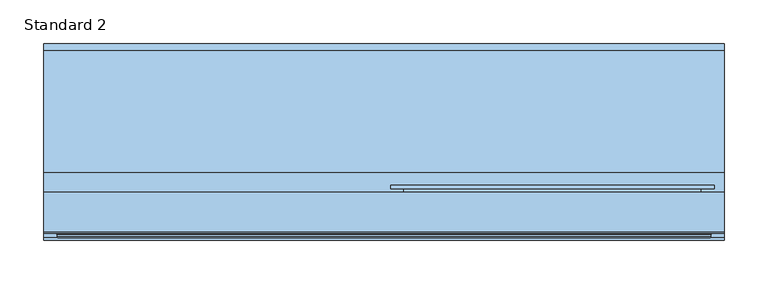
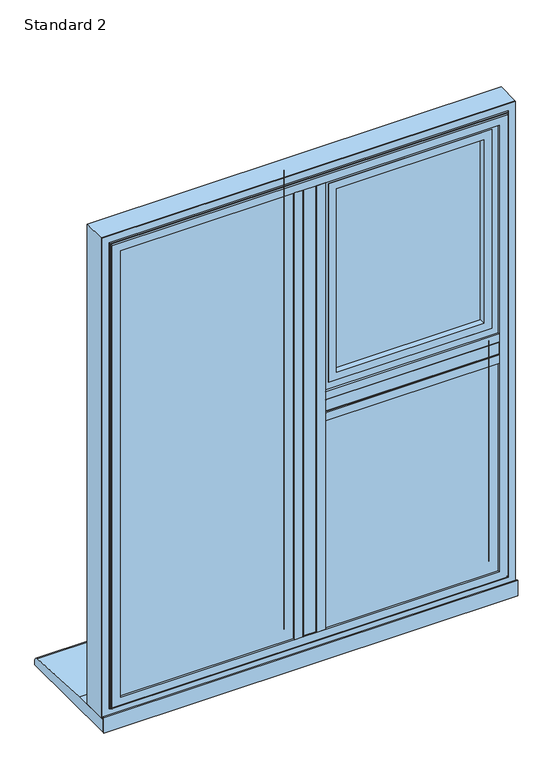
"""IFC4 building model written with IfcOpenShell, lengths in millimetres: window geometry, SMARTS_AlithermHeritage : Standard 2."""

from ifc_helpers import new_model, si_unit, point, frame, frame_2d, origin, place, context, project, spatial, polyline, circle_curve, ellipse_curve, trimmed, segment, composite_curve, outline, extrude, faceted_brep, source, transform, mapped, element, save
from ifc_brep_helpers import plane_surface, cylinder_surface, revolved_surface, advanced_brep


def standard_2_d4f8b310(model_context):
    return source(origin(), model_context, "Body", "SolidModel", [
        extrude(outline(polyline([(-13.6941456, 95.2798432), (13.6941456, 95.2798432), (13.6941456, 47.279476), (-13.6941456, 47.279476), (-13.6941456, 95.2798432)])), frame((0.0, 0.0, 652.6941456), z_axis=(0.0, 0.0, 1.0), x_axis=(1.0, 0.0, 0.0)), (0.0, 0.0, 1.0), 919.6117089),
        extrude(outline(composite_curve([segment(polyline([(-29.0, 47.279476), (29.0, 47.279476), (29.0, 43.2798432), (13.0, 43.2798432)]), True, "CONTINUOUS"), segment(trimmed(circle_curve(frame_2d((13.0, 44.2798432)), 1.0), [point((13.0, 43.2798432))], [point((12.0, 44.2798432))], False, "CARTESIAN"), True, "CONTINUOUS"), segment(polyline([(12.0, 44.2798432), (12.0, 45.7798432), (-12.0, 45.7798432), (-12.0, 44.2798432)]), True, "CONTINUOUS"), segment(trimmed(circle_curve(frame_2d((-13.0, 44.2798432)), 1.0), [point((-12.0, 44.2798432))], [point((-13.0, 43.2798432))], False, "CARTESIAN"), True, "CONTINUOUS"), segment(polyline([(-13.0, 43.2798432), (-29.0, 43.2798432), (-29.0, 47.279476)]), True, "CONTINUOUS")], self_intersect=False)), frame((0.0, 0.0, 668.0), z_axis=(0.0, 0.0, 1.0), x_axis=(1.0, 0.0, 0.0)), (0.0, 0.0, 1.0), 889.0),
        extrude(outline(polyline([(372.3058544, 95.2798432), (372.3058544, 47.279476), (13.6941456, 47.279476), (13.6941456, 95.2798432), (372.3058544, 95.2798432)])), frame((0.0, 0.0, 1098.8058544), z_axis=(0.0, 0.0, 1.0), x_axis=(1.0, 0.0, 0.0)), (0.0, 0.0, 1.0), 27.3882911),
        extrude(outline(composite_curve([segment(polyline([(47.279476, 1083.5), (43.2798432, 1083.5), (43.2798432, 1099.5)]), True, "CONTINUOUS"), segment(trimmed(circle_curve(frame_2d((44.2798432, 1099.5)), 1.0), [point((43.2798432, 1099.5))], [point((44.2798432, 1100.5))], False, "CARTESIAN"), True, "CONTINUOUS"), segment(polyline([(44.2798432, 1100.5), (45.7798432, 1100.5), (45.7798432, 1124.5), (44.2798432, 1124.5)]), True, "CONTINUOUS"), segment(trimmed(circle_curve(frame_2d((44.2798432, 1125.5)), 1.0), [point((44.2798432, 1124.5))], [point((43.2798432, 1125.5))], False, "CARTESIAN"), True, "CONTINUOUS"), segment(polyline([(43.2798432, 1125.5), (43.2798432, 1141.5), (47.279476, 1141.5), (47.279476, 1083.5)]), True, "CONTINUOUS")], self_intersect=False)), frame((29.0, 0.0, 0.0), z_axis=(1.0, 0.0, 0.0), x_axis=(0.0, 1.0, 0.0)), (0.0, 0.0, 1.0), 328.0),
        extrude(outline(polyline([(-367.0, 75.2798432), (-19.0, 75.2798432), (-19.0, 71.2798432), (-367.0, 71.2798432), (-367.0, 75.2798432)])), frame((0.0, 0.0, 658.0), z_axis=(0.0, 0.0, 1.0), x_axis=(1.0, 0.0, 0.0)), (0.0, 0.0, 1.0), 909.0),
        extrude(outline(polyline([(-367.0, 55.2798432), (-19.0, 55.2798432), (-19.0, 51.2798432), (-367.0, 51.2798432), (-367.0, 55.2798432)])), frame((0.0, 0.0, 658.0), z_axis=(0.0, 0.0, 1.0), x_axis=(1.0, 0.0, 0.0)), (0.0, 0.0, 1.0), 909.0),
        extrude(outline(polyline([(1567.0, -367.0), (658.0, -367.0), (658.0, -19.0), (1567.0, -19.0), (1567.0, -367.0)]), holes=[polyline([(1557.0, -29.0), (668.0, -29.0), (668.0, -357.0), (1557.0, -357.0), (1557.0, -29.0)])]), frame((0.0, 55.2798432, 0.0), z_axis=(0.0, 1.0, 0.0), x_axis=(0.0, 0.0, 1.0)), (0.0, 0.0, 1.0), 16.0),
        faceted_brep([(-19.1851151, 95.2798432, 1566.8148849), (-29.0, 78.2798098, 1557.0), (-357.0, 78.2798098, 1557.0), (-366.8148849, 95.2798432, 1566.8148849), (-13.6297324, 78.2798098, 1572.3702676), (-13.6297324, 95.2798432, 1572.3702676), (-372.3702676, 95.2798432, 1572.3702676), (-372.3702676, 78.2798098, 1572.3702676), (-372.3702676, 78.2798098, 652.6297324), (-372.3702676, 95.2798432, 652.6297324), (-13.6297324, 95.2798432, 652.6297324), (-13.6297324, 78.2798098, 652.6297324), (-366.8148849, 95.2798432, 658.1851151), (-19.1851151, 95.2798432, 658.1851151), (-29.0, 78.2798098, 668.0), (-357.0, 78.2798098, 668.0)], [[[0, 1, 2, 3]], [[4, 5, 6, 7]], [[8, 9, 10, 11]], [[5, 10, 9, 6], [3, 12, 13, 0]], [[7, 8, 11, 4], [1, 14, 15, 2]], [[3, 2, 15, 12]], [[7, 6, 9, 8]], [[12, 15, 14, 13]], [[13, 14, 1, 0]], [[11, 10, 5, 4]]]),
        extrude(outline(polyline([(19.0, 75.2798432), (367.0, 75.2798432), (367.0, 71.2798432), (19.0, 71.2798432), (19.0, 75.2798432)])), frame((0.0, 0.0, 658.0), z_axis=(0.0, 0.0, 1.0), x_axis=(1.0, 0.0, 0.0)), (0.0, 0.0, 1.0), 435.5),
        extrude(outline(polyline([(19.0, 55.2798432), (367.0, 55.2798432), (367.0, 51.2798432), (19.0, 51.2798432), (19.0, 55.2798432)])), frame((0.0, 0.0, 658.0), z_axis=(0.0, 0.0, 1.0), x_axis=(1.0, 0.0, 0.0)), (0.0, 0.0, 1.0), 435.5),
        extrude(outline(polyline([(1093.5, 19.0), (658.0, 19.0), (658.0, 367.0), (1093.5, 367.0), (1093.5, 19.0)]), holes=[polyline([(1083.5, 357.0), (668.0, 357.0), (668.0, 29.0), (1083.5, 29.0), (1083.5, 357.0)])]), frame((0.0, 55.2798432, 0.0), z_axis=(0.0, 1.0, 0.0), x_axis=(0.0, 0.0, 1.0)), (0.0, 0.0, 1.0), 16.0),
        faceted_brep([(366.8148849, 95.2798432, 1093.3148849), (357.0, 78.2798098, 1083.5), (29.0, 78.2798098, 1083.5), (19.1851151, 95.2798432, 1093.3148849), (372.3702676, 78.2798098, 1098.8702676), (372.3702676, 95.2798432, 1098.8702676), (13.6297324, 95.2798432, 1098.8702676), (13.6297324, 78.2798098, 1098.8702676), (13.6297324, 78.2798098, 652.6297324), (13.6297324, 95.2798432, 652.6297324), (372.3702676, 95.2798432, 652.6297324), (372.3702676, 78.2798098, 652.6297324), (19.1851151, 95.2798432, 658.1851151), (366.8148849, 95.2798432, 658.1851151), (357.0, 78.2798098, 668.0), (29.0, 78.2798098, 668.0)], [[[0, 1, 2, 3]], [[4, 5, 6, 7]], [[8, 9, 10, 11]], [[5, 10, 9, 6], [3, 12, 13, 0]], [[7, 8, 11, 4], [1, 14, 15, 2]], [[3, 2, 15, 12]], [[7, 6, 9, 8]], [[12, 15, 14, 13]], [[13, 14, 1, 0]], [[11, 10, 5, 4]]]),
        extrude(outline(polyline([(1590.0, 390.0), (1590.0, -390.0), (635.0, -390.0), (635.0, 390.0), (1590.0, 390.0)]), holes=[polyline([(652.7000182, 372.2999818), (652.7000182, -372.2999818), (1572.2999818, -372.2999818), (1572.2999818, 372.2999818), (652.7000182, 372.2999818)])]), frame((0.0, 50.279857, 0.0), z_axis=(0.0, 1.0, 0.0), x_axis=(0.0, 0.0, 1.0)), (0.0, 0.0, 1.0), 44.9999962),
        advanced_brep(
        [(357.0, 43.2798432, 1557.0), (357.0, 47.2798432, 1557.0), (357.0, 47.2798432, 668.0), (357.0, 43.2798432, 668.0), (390.0, 50.279857, 1590.0), (390.0, 48.279857, 1590.0), (390.0, 48.279857, 635.0), (390.0, 50.279857, 635.0), (372.4999818, 43.2798432, 1572.4999818), (-372.4999818, 43.2798432, 1572.4999818), (-372.4999818, 43.2798432, 652.5000182), (372.4999818, 43.2798432, 652.5000182), (-357.0, 43.2798432, 668.0), (-357.0, 43.2798432, 1557.0), (-390.0, 50.279857, 1590.0), (-390.0, 48.279857, 1590.0), (-390.0, 50.279857, 635.0), (372.2999818, 50.279857, 1572.2999818), (-372.2999818, 50.279857, 1572.2999818), (-372.2999818, 50.279857, 652.7000182), (372.2999818, 50.279857, 652.7000182), (-357.0, 47.2798432, 1557.0), (-357.0, 47.2798432, 668.0), (-390.0, 48.279857, 635.0), (-372.2999818, 47.2798432, 1572.2999818), (372.2999818, 47.2798432, 1572.2999818), (372.2999818, 47.2798432, 652.7000182), (374.4999818, 46.779857, 650.5000182), (374.4999818, 45.2798432, 650.5000182), (-374.4999818, 45.2798432, 650.5000182), (-374.4999818, 46.779857, 650.5000182), (374.4999818, 46.779857, 1574.4999818), (374.4999818, 45.2798432, 1574.4999818), (-372.2999818, 47.2798432, 652.7000182), (-374.4999818, 45.2798432, 1574.4999818), (-374.4999818, 46.779857, 1574.4999818), (375.9999818, 48.279857, 1575.9999818), (375.9999818, 48.279857, 649.0000182), (-375.9999818, 48.279857, 649.0000182), (-375.9999818, 48.279857, 1575.9999818)],
        [
            (0, 1),
            (1, 2),
            (2, 3),
            (3, 0),
            (4, 5),
            (5, 6),
            (6, 7),
            (7, 4),
            (8, 9),
            (9, 10),
            (10, 11),
            (11, 8),
            (3, 12),
            (12, 13),
            (13, 0),
            (14, 15),
            (15, 5),
            (4, 14),
            (7, 16),
            (16, 14),
            (17, 18),
            (18, 19),
            (19, 20),
            (20, 17),
            (13, 21),
            (21, 1),
            (2, 22),
            (22, 12),
            (22, 21),
            (6, 23),
            (23, 16),
            (23, 15),
            (24, 18),
            (17, 25),
            (25, 24),
            (20, 26),
            (26, 25),
            (27, 28),
            (28, 29),
            (29, 30),
            (30, 27),
            (31, 32),
            (32, 28),
            (27, 31),
            (19, 33),
            (33, 26),
            (24, 33),
            (29, 34),
            (34, 35),
            (35, 30),
            (34, 32),
            (31, 35),
            (36, 31, ellipse_curve(frame((375.9999818, 46.779857, 1575.9999818), z_axis=(-0.7071067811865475, 0.0, 0.7071067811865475), x_axis=(-0.7071067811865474, 0.0, -0.7071067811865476)), 2.1213203, 1.5)),
            (27, 37, ellipse_curve(frame((375.9999818, 46.779857, 649.0000182), z_axis=(-0.7071067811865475, 0.0, -0.7071067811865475), x_axis=(0.7071067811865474, 0.0, -0.7071067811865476)), 2.1213203, 1.5)),
            (37, 36),
            (30, 38, ellipse_curve(frame((-375.9999818, 46.779857, 649.0000182), z_axis=(-0.7071067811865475, 0.0, 0.7071067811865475), x_axis=(-0.7071067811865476, 0.0, -0.7071067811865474)), 2.1213203, 1.5)),
            (38, 37),
            (35, 39, ellipse_curve(frame((-375.9999818, 46.779857, 1575.9999818), z_axis=(0.7071067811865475, 0.0, 0.7071067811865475), x_axis=(-0.7071067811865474, 0.0, 0.7071067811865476)), 2.1213203, 1.5)),
            (39, 38),
            (36, 39),
            (32, 8, ellipse_curve(frame((372.4999818, 45.2798432, 1572.4999818), z_axis=(0.7071067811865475, 0.0, -0.7071067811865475), x_axis=(0.7071067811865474, 0.0, 0.7071067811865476)), 2.8284271, 2.0)),
            (11, 28, ellipse_curve(frame((372.4999818, 45.2798432, 652.5000182), z_axis=(0.7071067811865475, 0.0, 0.7071067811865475), x_axis=(-0.7071067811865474, 0.0, 0.7071067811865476)), 2.8284271, 2.0)),
            (10, 29, ellipse_curve(frame((-372.4999818, 45.2798432, 652.5000182), z_axis=(0.7071067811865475, 0.0, -0.7071067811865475), x_axis=(0.7071067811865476, 0.0, 0.7071067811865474)), 2.8284271, 2.0)),
            (9, 34, ellipse_curve(frame((-372.4999818, 45.2798432, 1572.4999818), z_axis=(-0.7071067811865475, 0.0, -0.7071067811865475), x_axis=(0.7071067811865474, 0.0, -0.7071067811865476)), 2.8284271, 2.0)),
        ],
        [
            plane_surface(frame((357.0, 47.2798432, 1557.0), z_axis=(-1.0, 0.0, 0.0), x_axis=(0.0, 0.0, -1.0))),
            plane_surface(frame((390.0, 48.279857, 1590.0), z_axis=(1.0, 0.0, 0.0), x_axis=(0.0, 0.0, -1.0))),
            plane_surface(frame((-357.0, 43.2798432, 1557.0), z_axis=(0.0, -1.0, 0.0), x_axis=(1.0, 0.0, 0.0))),
            plane_surface(frame((-390.0, 48.279857, 1590.0), z_axis=(0.0, 0.0, 1.0), x_axis=(1.0, 0.0, 0.0))),
            plane_surface(frame((-390.0, 50.279857, 1590.0), z_axis=(0.0, 1.0, 0.0), x_axis=(1.0, 0.0, 0.0))),
            plane_surface(frame((-357.0, 47.2798432, 1557.0), z_axis=(0.0, 0.0, -1.0), x_axis=(1.0, 0.0, 0.0))),
            plane_surface(frame((357.0, 47.2798432, 668.0), z_axis=(0.0, 0.0, 1.0), x_axis=(-1.0, 0.0, 0.0))),
            plane_surface(frame((-357.0, 47.2798432, 668.0), z_axis=(1.0, 0.0, 0.0), x_axis=(0.0, 0.0, 1.0))),
            plane_surface(frame((390.0, 48.279857, 635.0), z_axis=(0.0, 0.0, -1.0), x_axis=(-1.0, 0.0, 0.0))),
            plane_surface(frame((-390.0, 48.279857, 635.0), z_axis=(-1.0, 0.0, 0.0), x_axis=(0.0, 0.0, 1.0))),
            plane_surface(frame((-372.2999818, 50.279857, 1572.2999818), z_axis=(0.0, 0.0, -1.0), x_axis=(1.0, 0.0, 0.0))),
            plane_surface(frame((372.2999818, 50.279857, 1572.2999818), z_axis=(-1.0, 0.0, 0.0), x_axis=(0.0, 0.0, -1.0))),
            plane_surface(frame((374.4999818, 45.2798432, 650.5000182), z_axis=(0.0, 0.0, -1.0), x_axis=(-1.0, 0.0, 0.0))),
            plane_surface(frame((374.4999818, 45.2798432, 1574.4999818), z_axis=(1.0, 0.0, 0.0), x_axis=(0.0, 0.0, -1.0))),
            plane_surface(frame((372.2999818, 50.279857, 652.7000182), z_axis=(0.0, 0.0, 1.0), x_axis=(-1.0, 0.0, 0.0))),
            plane_surface(frame((-372.2999818, 50.279857, 652.7000182), z_axis=(1.0, 0.0, 0.0), x_axis=(0.0, 0.0, 1.0))),
            plane_surface(frame((-374.4999818, 45.2798432, 650.5000182), z_axis=(-1.0, 0.0, 0.0), x_axis=(0.0, 0.0, 1.0))),
            plane_surface(frame((-372.2999818, 47.2798432, 1572.2999818), z_axis=(0.0, 1.0, 0.0), x_axis=(1.0, 0.0, 0.0))),
            plane_surface(frame((-374.4999818, 45.2798432, 1574.4999818), z_axis=(0.0, 0.0, 1.0), x_axis=(1.0, 0.0, 0.0))),
            revolved_surface(polyline([(374.4999818, 46.779857, 647.5000182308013), (374.4999818, 46.779857, 1577.4999817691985)]), (375.9999818, 46.779857, 1590.0), (0.0, 0.0, -1.0)),
            revolved_surface(polyline([(-377.4999817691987, 46.779857, 650.5000182), (377.49998176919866, 46.779857, 650.5000182)]), (390.0, 46.779857, 649.0000182), (-1.0, 0.0, 0.0)),
            revolved_surface(polyline([(-374.4999818, 46.779857, 1577.4999817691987), (-374.4999818, 46.779857, 647.5000182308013)]), (-375.9999818, 46.779857, 635.0), (0.0, 0.0, 1.0)),
            revolved_surface(polyline([(377.4999817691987, 46.779857, 1574.4999818), (-377.49998176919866, 46.779857, 1574.4999818)]), (-390.0, 46.779857, 1575.9999818), (1.0, 0.0, 0.0)),
            plane_surface(frame((-375.9999818, 48.279857, 1575.9999818), z_axis=(0.0, -1.0, 0.0), x_axis=(1.0, 0.0, 0.0))),
            cylinder_surface(frame((372.4999818, 45.2798432, 1590.0), z_axis=(0.0, 0.0, 1.0), x_axis=(-1.0, 0.0, 0.0)), 2.0),
            cylinder_surface(frame((390.0, 45.2798432, 652.5000182), z_axis=(1.0, 0.0, 0.0), x_axis=(0.0, 0.0, 1.0)), 2.0),
            cylinder_surface(frame((-372.4999818, 45.2798432, 635.0), z_axis=(0.0, 0.0, -1.0), x_axis=(1.0, 0.0, 0.0)), 2.0),
            cylinder_surface(frame((-390.0, 45.2798432, 1572.4999818), z_axis=(-1.0, 0.0, 0.0), x_axis=(0.0, 0.0, -1.0)), 2.0),
        ],
        [
            (0, [[1, 2, 3, 4]]),
            (1, [[5, 6, 7, 8]]),
            (2, [[9, 10, 11, 12], [13, 14, 15, -4]]),
            (3, [[16, 17, -5, 18]]),
            (4, [[19, 20, -18, -8], [21, 22, 23, 24]]),
            (5, [[25, 26, -1, -15]]),
            (6, [[-3, 27, 28, -13]]),
            (7, [[-28, 29, -25, -14]]),
            (8, [[-7, 30, 31, -19]]),
            (9, [[-31, 32, -16, -20]]),
            (10, [[33, -21, 34, 35]]),
            (11, [[-34, -24, 36, 37]]),
            (12, [[38, 39, 40, 41]]),
            (13, [[42, 43, -38, 44]]),
            (14, [[-36, -23, 45, 46]]),
            (15, [[-45, -22, -33, 47]]),
            (16, [[-40, 48, 49, 50]]),
            (17, [[-46, -47, -35, -37], [-26, -29, -27, -2]]),
            (18, [[-49, 51, -42, 52]]),
            (19, [[53, -44, 54, 55]]),
            (20, [[-54, -41, 56, 57]]),
            (21, [[-56, -50, 58, 59]]),
            (22, [[-58, -52, -53, 60]]),
            (23, [[-17, -32, -30, -6], [-57, -59, -60, -55]]),
            (24, [[61, -12, 62, -43]]),
            (25, [[-62, -11, 63, -39]]),
            (26, [[-63, -10, 64, -48]]),
            (27, [[-64, -9, -61, -51]]),
        ],
    ),
        extrude(outline(polyline([(42.5, 89.2798432), (343.5, 89.2798432), (343.5, 85.2798432), (42.5, 85.2798432), (42.5, 89.2798432)])), frame((0.0, 0.0, 1155.0), z_axis=(0.0, 0.0, 1.0), x_axis=(1.0, 0.0, 0.0)), (0.0, 0.0, 1.0), 388.5),
        extrude(outline(polyline([(42.5, 69.2798432), (343.5, 69.2798432), (343.5, 65.2798432), (42.5, 65.2798432), (42.5, 69.2798432)])), frame((0.0, 0.0, 1155.0), z_axis=(0.0, 0.0, 1.0), x_axis=(1.0, 0.0, 0.0)), (0.0, 0.0, 1.0), 388.5),
        extrude(outline(polyline([(1543.5, 42.5), (1155.0, 42.5), (1155.0, 343.5), (1543.5, 343.5), (1543.5, 42.5)]), holes=[polyline([(1533.5, 333.5), (1165.0, 333.5), (1165.0, 52.5), (1533.5, 52.5), (1533.5, 333.5)])]), frame((0.0, 69.2798432, 0.0), z_axis=(0.0, 1.0, 0.0), x_axis=(0.0, 0.0, 1.0)), (0.0, 0.0, 1.0), 16.0),
        extrude(outline(polyline([(1547.0052956, 38.9947044), (1151.4947044, 38.9947044), (1151.4947044, 347.0052956), (1547.0052956, 347.0052956), (1547.0052956, 38.9947044)]), holes=[polyline([(1532.0, 332.0), (1166.5, 332.0), (1166.5, 54.0), (1532.0, 54.0), (1532.0, 332.0)])]), frame((0.0, 51.2798432, 0.0), z_axis=(0.0, 1.0, 0.0), x_axis=(0.0, 0.0, 1.0)), (0.0, 0.0, 1.0), 11.3),
        extrude(outline(polyline([(1135.8548042, 23.3548042), (1135.8548042, 362.6451958), (1562.6451958, 362.6451958), (1562.6451958, 23.3548042), (1135.8548042, 23.3548042)]), holes=[polyline([(1547.0, 39.0), (1547.0, 347.0), (1151.5, 347.0), (1151.5, 39.0), (1547.0, 39.0)])]), frame((0.0, 51.2798432, 0.0), z_axis=(0.0, 1.0, 0.0), x_axis=(0.0, 0.0, 1.0)), (0.0, 0.0, 1.0), 41.6),
        advanced_brep(
        [(54.0, 98.0798432, 1532.0), (54.0, 92.8798432, 1532.0), (54.0, 92.8798432, 1166.5), (54.0, 98.0798432, 1166.5), (332.0, 92.8798432, 1166.5), (332.0, 98.0798432, 1166.5), (332.0, 92.8798432, 1532.0), (332.0, 98.0798432, 1532.0), (7.8, 99.2798432, 1578.2), (7.8, 103.2798432, 1578.2), (7.8, 103.2798432, 1120.3), (7.8, 99.2798432, 1120.3), (378.2, 103.2798432, 1120.3), (378.2, 99.2798432, 1120.3), (378.2, 103.2798432, 1578.2), (378.2, 99.2798432, 1578.2), (22.8532343, 99.2798432, 1563.1467657), (363.1467657, 99.2798432, 1563.1467657), (363.1467657, 99.2798432, 1135.3532343), (22.8532343, 99.2798432, 1135.3532343), (36.8, 103.2798432, 1149.3), (349.2, 103.2798432, 1149.3), (349.2, 103.2798432, 1549.2), (36.8, 103.2798432, 1549.2), (22.8532343, 92.8798432, 1563.1467657), (22.8532343, 92.8798432, 1135.3532343), (363.1467657, 92.8798432, 1135.3532343), (363.1467657, 92.8798432, 1563.1467657), (38.8, 101.2798432, 1547.2), (38.8, 100.0798432, 1547.2), (38.8, 100.0798432, 1151.3), (38.8, 101.2798432, 1151.3), (40.8, 98.0798432, 1545.2), (40.8, 98.0798432, 1153.3), (347.2, 100.0798432, 1151.3), (347.2, 101.2798432, 1151.3), (345.2, 98.0798432, 1153.3), (347.2, 100.0798432, 1547.2), (347.2, 101.2798432, 1547.2), (345.2, 98.0798432, 1545.2)],
        [
            (0, 1),
            (1, 2),
            (2, 3),
            (3, 0),
            (2, 4),
            (4, 5),
            (5, 3),
            (4, 6),
            (6, 7),
            (7, 5),
            (6, 1),
            (0, 7),
            (8, 9),
            (9, 10),
            (10, 11),
            (11, 8),
            (10, 12),
            (12, 13),
            (13, 11),
            (12, 14),
            (14, 15),
            (15, 13),
            (15, 8),
            (16, 17),
            (17, 18),
            (18, 19),
            (19, 16),
            (14, 9),
            (20, 21),
            (21, 22),
            (22, 23),
            (23, 20),
            (24, 16),
            (19, 25),
            (25, 24),
            (18, 26),
            (26, 25),
            (17, 27),
            (27, 26),
            (27, 24),
            (28, 29),
            (29, 30),
            (30, 31),
            (31, 28),
            (29, 32, ellipse_curve(frame((40.8, 100.0798432, 1545.2), z_axis=(0.7071067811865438, 0.0, 0.7071067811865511), x_axis=(0.707106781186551, 0.0, -0.7071067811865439)), 2.8284271, 2.0)),
            (32, 33),
            (33, 30, ellipse_curve(frame((40.8, 100.0798432, 1153.3), z_axis=(0.7071067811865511, 0.0, -0.7071067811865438), x_axis=(-0.7071067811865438, 0.0, -0.7071067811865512)), 2.8284271, 2.0)),
            (30, 34),
            (34, 35),
            (35, 31),
            (33, 36),
            (36, 34, ellipse_curve(frame((345.2, 100.0798432, 1153.3), z_axis=(0.7071067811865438, 0.0, 0.7071067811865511), x_axis=(0.7071067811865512, 0.0, -0.7071067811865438)), 2.8284271, 2.0)),
            (34, 37),
            (37, 38),
            (38, 35),
            (36, 39),
            (39, 37, ellipse_curve(frame((345.2, 100.0798432, 1545.2), z_axis=(-0.7071067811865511, 0.0, 0.7071067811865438), x_axis=(0.7071067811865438, 0.0, 0.7071067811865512)), 2.8284271, 2.0)),
            (32, 39),
            (37, 29),
            (28, 38),
            (23, 28, ellipse_curve(frame((36.8, 101.2798432, 1549.2), z_axis=(-0.7071067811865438, 0.0, -0.7071067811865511), x_axis=(-0.707106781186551, 0.0, 0.7071067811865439)), 2.8284271, 2.0)),
            (31, 20, ellipse_curve(frame((36.8, 101.2798432, 1149.3), z_axis=(-0.7071067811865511, 0.0, 0.7071067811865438), x_axis=(0.7071067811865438, 0.0, 0.7071067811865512)), 2.8284271, 2.0)),
            (35, 21, ellipse_curve(frame((349.2, 101.2798432, 1149.3), z_axis=(-0.7071067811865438, 0.0, -0.7071067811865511), x_axis=(-0.7071067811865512, 0.0, 0.7071067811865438)), 2.8284271, 2.0)),
            (38, 22, ellipse_curve(frame((349.2, 101.2798432, 1549.2), z_axis=(0.7071067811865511, 0.0, -0.7071067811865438), x_axis=(-0.7071067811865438, 0.0, -0.7071067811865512)), 2.8284271, 2.0)),
        ],
        [
            plane_surface(frame((54.0, 92.8798432, 1532.0), z_axis=(1.0, 0.0, 0.0), x_axis=(0.0, 0.0, -1.0))),
            plane_surface(frame((54.0, 92.8798432, 1166.5), z_axis=(0.0, 0.0, 1.0), x_axis=(1.0, 0.0, 0.0))),
            plane_surface(frame((332.0, 92.8798432, 1166.5), z_axis=(-1.0, 0.0, 0.0), x_axis=(0.0, 0.0, 1.0))),
            plane_surface(frame((332.0, 92.8798432, 1532.0), z_axis=(0.0, 0.0, -1.0), x_axis=(-1.0, 0.0, 0.0))),
            plane_surface(frame((7.8, 103.2798432, 1578.2), z_axis=(-1.0, 0.0, 0.0), x_axis=(0.0, 0.0, -1.0))),
            plane_surface(frame((7.8, 103.2798432, 1120.3), z_axis=(0.0, 0.0, -1.0), x_axis=(1.0, 0.0, 0.0))),
            plane_surface(frame((378.2, 103.2798432, 1120.3), z_axis=(1.0, 0.0, 0.0), x_axis=(0.0, 0.0, 1.0))),
            plane_surface(frame((378.2, 99.2798432, 1578.2), z_axis=(0.0, -1.0, 0.0), x_axis=(-1.0, 0.0, 0.0))),
            plane_surface(frame((378.2, 103.2798432, 1578.2), z_axis=(0.0, 0.0, 1.0), x_axis=(-1.0, 0.0, 0.0))),
            plane_surface(frame((349.2, 103.2798432, 1549.2), z_axis=(0.0, 1.0, 0.0), x_axis=(-1.0, 0.0, 0.0))),
            plane_surface(frame((22.8532343, 99.2798432, 1563.1467657), z_axis=(-1.0, 0.0, 0.0), x_axis=(0.0, 0.0, -1.0))),
            plane_surface(frame((22.8532343, 99.2798432, 1135.3532343), z_axis=(0.0, 0.0, -1.0), x_axis=(1.0, 0.0, 0.0))),
            plane_surface(frame((363.1467657, 99.2798432, 1135.3532343), z_axis=(1.0, 0.0, 0.0), x_axis=(0.0, 0.0, 1.0))),
            plane_surface(frame((363.1467657, 92.8798432, 1563.1467657), z_axis=(0.0, -1.0, 0.0), x_axis=(-1.0, 0.0, 0.0))),
            plane_surface(frame((363.1467657, 99.2798432, 1563.1467657), z_axis=(0.0, 0.0, 1.0), x_axis=(-1.0, 0.0, 0.0))),
            plane_surface(frame((38.8, 100.0798432, 1547.2), z_axis=(1.0, 0.0, 0.0), x_axis=(0.0, 0.0, -1.0))),
            revolved_surface(polyline([(38.8, 100.0798432, 1151.3), (38.8, 100.0798432, 1547.2)]), (40.8, 100.0798432, 1557.0), (0.0, 0.0, -1.0)),
            plane_surface(frame((38.8, 100.0798432, 1151.3), z_axis=(0.0, 0.0, 1.0), x_axis=(1.0, 0.0, 0.0))),
            revolved_surface(polyline([(347.2, 100.0798432, 1151.3), (38.8, 100.0798432, 1151.3)]), (29.0, 100.0798432, 1153.3), (1.0, 0.0, 0.0)),
            plane_surface(frame((347.2, 100.0798432, 1151.3), z_axis=(-1.0, 0.0, 0.0), x_axis=(0.0, 0.0, 1.0))),
            revolved_surface(polyline([(347.2, 100.0798432, 1547.2), (347.2, 100.0798432, 1151.3)]), (345.2, 100.0798432, 1141.5), (0.0, 0.0, 1.0)),
            plane_surface(frame((332.0, 98.0798432, 1532.0), z_axis=(0.0, 1.0, 0.0), x_axis=(-1.0, 0.0, 0.0))),
            plane_surface(frame((347.2, 100.0798432, 1547.2), z_axis=(0.0, 0.0, -1.0), x_axis=(-1.0, 0.0, 0.0))),
            revolved_surface(polyline([(38.80000000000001, 100.0798432, 1547.2), (347.2, 100.0798432, 1547.2)]), (357.0, 100.0798432, 1545.2), (-1.0, 0.0, 0.0)),
            cylinder_surface(frame((36.8, 101.2798432, 1557.0), z_axis=(0.0, 0.0, 1.0), x_axis=(-1.0, 0.0, 0.0)), 2.0),
            cylinder_surface(frame((29.0, 101.2798432, 1149.3), z_axis=(-1.0, 0.0, 0.0), x_axis=(0.0, 0.0, -1.0)), 2.0),
            cylinder_surface(frame((349.2, 101.2798432, 1141.5), z_axis=(0.0, 0.0, -1.0), x_axis=(1.0, 0.0, 0.0)), 2.0),
            cylinder_surface(frame((357.0, 101.2798432, 1549.2), z_axis=(1.0, 0.0, 0.0), x_axis=(0.0, 0.0, 1.0)), 2.0),
        ],
        [
            (0, [[1, 2, 3, 4]]),
            (1, [[-3, 5, 6, 7]]),
            (2, [[-6, 8, 9, 10]]),
            (3, [[-9, 11, -1, 12]]),
            (4, [[13, 14, 15, 16]]),
            (5, [[-15, 17, 18, 19]]),
            (6, [[-18, 20, 21, 22]]),
            (7, [[-19, -22, 23, -16], [24, 25, 26, 27]]),
            (8, [[-21, 28, -13, -23]]),
            (9, [[-28, -20, -17, -14], [29, 30, 31, 32]]),
            (10, [[33, -27, 34, 35]]),
            (11, [[-34, -26, 36, 37]]),
            (12, [[-36, -25, 38, 39]]),
            (13, [[-37, -39, 40, -35], [-11, -8, -5, -2]]),
            (14, [[-38, -24, -33, -40]]),
            (15, [[41, 42, 43, 44]]),
            (16, [[45, 46, 47, -42]]),
            (17, [[-43, 48, 49, 50]]),
            (18, [[-47, 51, 52, -48]]),
            (19, [[-49, 53, 54, 55]]),
            (20, [[-52, 56, 57, -53]]),
            (21, [[58, -56, -51, -46], [-7, -10, -12, -4]]),
            (22, [[-54, 59, -41, 60]]),
            (23, [[-57, -58, -45, -59]]),
            (24, [[61, -44, 62, -32]]),
            (25, [[-62, -50, 63, -29]]),
            (26, [[-63, -55, 64, -30]]),
            (27, [[-64, -60, -61, -31]]),
        ],
    ),
        extrude(outline(polyline([(390.0, 43.2798432), (390.0, 40.7798432), (-390.0, 40.7798432), (-390.0, 43.2798432), (390.0, 43.2798432)])), frame((0.0, 0.0, 610.0), z_axis=(0.0, 0.0, 1.0), x_axis=(1.0, 0.0, 0.0)), (0.0, 0.0, 1.0), 31.0),
        extrude(outline(composite_curve([segment(polyline([(265.7798432, 610.0), (43.2798432, 610.0), (43.2798432, 635.0), (118.7798432, 635.0), (258.4770891, 625.9276664)]), True, "CONTINUOUS"), segment(trimmed(circle_curve(frame_2d((257.7798432, 617.9581088)), 8.0), [point((258.4770891, 625.9276664))], [point((265.7798432, 617.9581088))], False, "CARTESIAN"), True, "CONTINUOUS"), segment(polyline([(265.7798432, 617.9581088), (265.7798432, 610.0)]), True, "CONTINUOUS")], self_intersect=False)), frame((-390.0, 0.0, 0.0), z_axis=(1.0, 0.0, 0.0), x_axis=(0.0, 1.0, 0.0)), (0.0, 0.0, 1.0), 780.0),
    ])


if __name__ == "__main__":
    model = new_model("IFC4")
    model_context = context("Model", 3, world=origin())
    ifc_project = project(units=[si_unit("LENGTHUNIT", "METRE", prefix="MILLI")], contexts=[model_context])
    site = spatial("IfcSite", under=ifc_project)
    building = spatial("IfcBuilding", under=site)
    placement = place(None, origin())
    standard_2_shape = standard_2_d4f8b310(model_context)
    element("IfcWindow", 1, ObjectType="SMARTS_AlithermHeritage : Standard 2", at=placement, inside=building, context=model_context, shape_type="MappedRepresentation", body=[
        mapped(standard_2_shape, transform((0.0, 0.0, 0.0), x_axis=(1.0, 0.0, 0.0), y_axis=(0.0, 1.0, 0.0), z_axis=(0.0, 0.0, 1.0))),
    ])
    save(model, "model.ifc")
